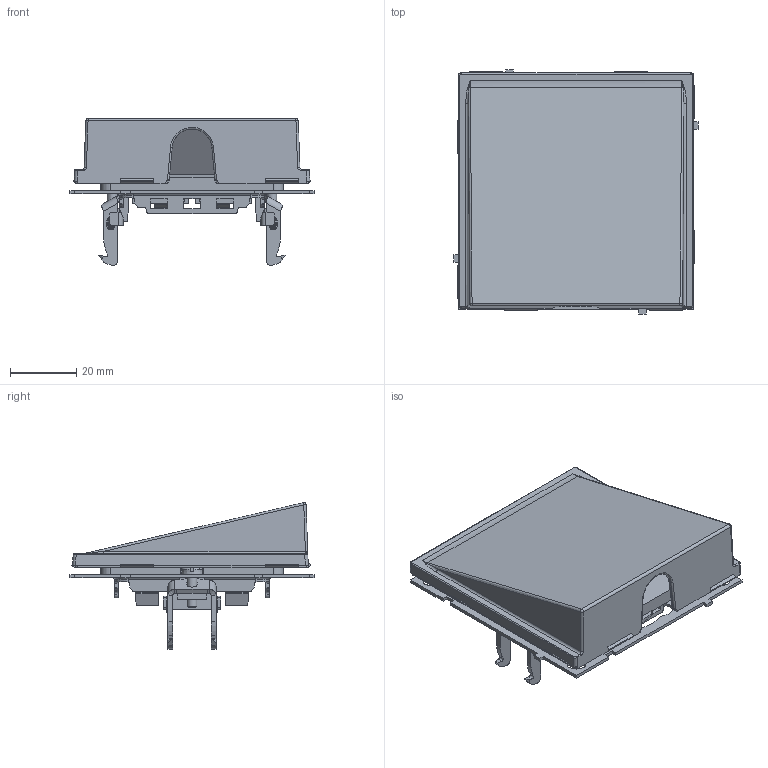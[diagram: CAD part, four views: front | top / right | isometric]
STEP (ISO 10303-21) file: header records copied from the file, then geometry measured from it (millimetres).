
FILE_DESCRIPTION (( 'STEP AP203' ), '1' );
FILE_NAME ('7000983.STEP', '2025-12-04T08:15:56', ( '' ), ( '' ), 'SwSTEP 2.0', 'SolidWorks 2022', '' );
FILE_SCHEMA (( 'CONFIG_CONTROL_DESIGN' ));
Length unit declared in the file: millimetre
Products named in the file (1): 7000983
Bounding box: 73.5 x 73.5 x 44.18 mm (x, y, z)
Volume: 24782.9 mm3; surface area: 31623.4 mm2
Topology: 4 solids, 4 shells, 902 faces, 2427 edges, 1530 vertices
Faces by surface type: plane 506, cylinder 276, torus 42, bspline 40, cone 32, sphere 6
Full cylindrical faces by diameter (mm): 3 x4, 3.3 x2
Entity records: 29141 total; most frequent: CARTESIAN_POINT 6721, ORIENTED_EDGE 4806, DIRECTION 4515, EDGE_CURVE 2403, LINE 1635, VECTOR 1635, VERTEX_POINT 1520, AXIS2_PLACEMENT_3D 1440
